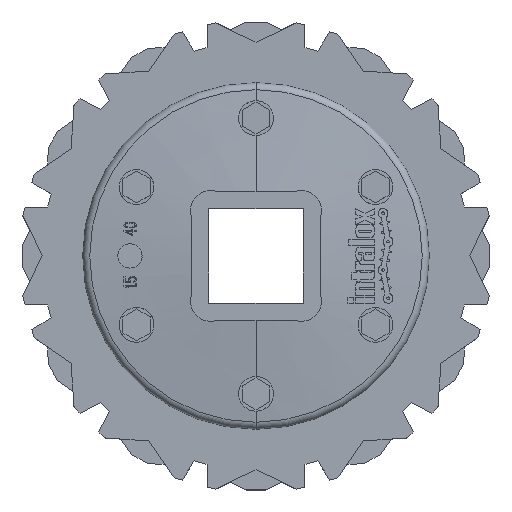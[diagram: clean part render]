
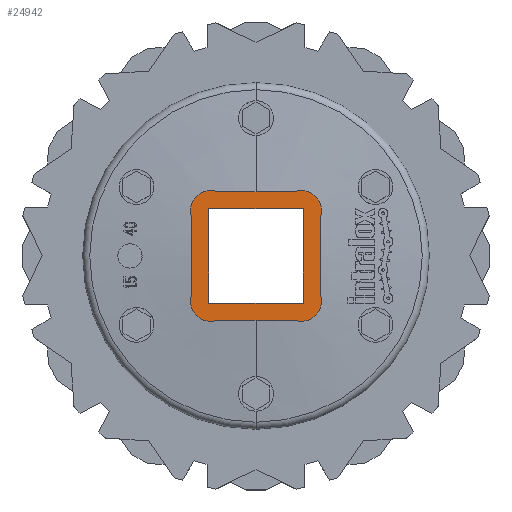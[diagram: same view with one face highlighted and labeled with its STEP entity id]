
A CAD part, top view. The second image highlights one B-rep face of the part: STEP entity #24942.
In plain terms, the highlighted planar face has unit normal (0, 0, 1) as drawn and (0, 1, 0) by its records, which use the part's own axes.
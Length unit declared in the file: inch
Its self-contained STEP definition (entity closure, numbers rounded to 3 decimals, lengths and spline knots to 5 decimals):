
#17965=DIRECTION('',(0.,0.,1.));
#17966=VECTOR('',#17965,1.21061);
#17967=CARTESIAN_POINT('',(-1.0175,0.67,-0.60531));
#17968=LINE('',#17967,#17966);
#17969=CARTESIAN_POINT('',(-0.718,0.67,-0.718));
#17970=DIRECTION('',(0.,1.,0.));
#17971=DIRECTION('',(0.352,0.,-0.936));
#17972=AXIS2_PLACEMENT_3D('',#17969,#17970,#17971);
#17974=DIRECTION('',(-1.,0.,0.));
#17975=VECTOR('',#17974,1.21061);
#17976=CARTESIAN_POINT('',(0.60531,0.67,-1.0175));
#17977=LINE('',#17976,#17975);
#17978=CARTESIAN_POINT('',(0.718,0.67,-0.718));
#17979=DIRECTION('',(0.,1.,0.));
#17980=DIRECTION('',(0.936,0.,0.352));
#17981=AXIS2_PLACEMENT_3D('',#17978,#17979,#17980);
#17983=DIRECTION('',(0.,0.,-1.));
#17984=VECTOR('',#17983,1.21061);
#17985=CARTESIAN_POINT('',(1.0175,0.67,0.60531));
#17986=LINE('',#17985,#17984);
#17987=CARTESIAN_POINT('',(0.718,0.67,0.718));
#17988=DIRECTION('',(0.,1.,0.));
#17989=DIRECTION('',(-0.352,0.,0.936));
#17990=AXIS2_PLACEMENT_3D('',#17987,#17988,#17989);
#17992=DIRECTION('',(1.,0.,0.));
#17993=VECTOR('',#17992,1.21061);
#17994=CARTESIAN_POINT('',(-0.60531,0.67,1.0175));
#17995=LINE('',#17994,#17993);
#17996=CARTESIAN_POINT('',(-0.718,0.67,0.718));
#17997=DIRECTION('',(0.,1.,0.));
#17998=DIRECTION('',(-0.936,0.,-0.352));
#17999=AXIS2_PLACEMENT_3D('',#17996,#17997,#17998);
#18001=DIRECTION('',(-1.,0.,0.));
#18002=VECTOR('',#18001,1.5);
#18003=CARTESIAN_POINT('',(0.75,0.67,-0.75));
#18004=LINE('',#18003,#18002);
#18005=DIRECTION('',(0.,0.,1.));
#18006=VECTOR('',#18005,1.5);
#18007=CARTESIAN_POINT('',(-0.75,0.67,-0.75));
#18008=LINE('',#18007,#18006);
#18009=DIRECTION('',(1.,0.,0.));
#18010=VECTOR('',#18009,1.5);
#18011=CARTESIAN_POINT('',(-0.75,0.67,0.75));
#18012=LINE('',#18011,#18010);
#18013=DIRECTION('',(0.,0.,-1.));
#18014=VECTOR('',#18013,1.5);
#18015=CARTESIAN_POINT('',(0.75,0.67,0.75));
#18016=LINE('',#18015,#18014);
#18287=CARTESIAN_POINT('',(-1.0175,0.67,-0.60531));
#18288=CARTESIAN_POINT('',(-1.0175,0.67,0.60531));
#18289=VERTEX_POINT('',#18287);
#18290=VERTEX_POINT('',#18288);
#18291=CARTESIAN_POINT('',(-0.60531,0.67,1.0175));
#18292=VERTEX_POINT('',#18291);
#18293=CARTESIAN_POINT('',(0.60531,0.67,1.0175));
#18294=VERTEX_POINT('',#18293);
#18295=CARTESIAN_POINT('',(1.0175,0.67,0.60531));
#18296=VERTEX_POINT('',#18295);
#18297=CARTESIAN_POINT('',(1.0175,0.67,-0.60531));
#18298=VERTEX_POINT('',#18297);
#18299=CARTESIAN_POINT('',(0.60531,0.67,-1.0175));
#18300=VERTEX_POINT('',#18299);
#18301=CARTESIAN_POINT('',(-0.60531,0.67,-1.0175));
#18302=VERTEX_POINT('',#18301);
#19047=CARTESIAN_POINT('',(0.75,0.67,-0.75));
#19048=VERTEX_POINT('',#19047);
#19049=CARTESIAN_POINT('',(-0.75,0.67,-0.75));
#19050=VERTEX_POINT('',#19049);
#19051=CARTESIAN_POINT('',(-0.75,0.67,0.75));
#19052=VERTEX_POINT('',#19051);
#19053=CARTESIAN_POINT('',(0.75,0.67,0.75));
#19054=VERTEX_POINT('',#19053);
#24917=CARTESIAN_POINT('',(0.,0.67,0.));
#24918=DIRECTION('',(0.,1.,0.));
#24919=DIRECTION('',(-1.,0.,0.));
#24920=AXIS2_PLACEMENT_3D('',#24917,#24918,#24919);
#24921=PLANE('',#24920);
#24922=ORIENTED_EDGE('',*,*,#24811,.F.);
#24923=ORIENTED_EDGE('',*,*,#24827,.F.);
#24924=ORIENTED_EDGE('',*,*,#24841,.F.);
#24925=ORIENTED_EDGE('',*,*,#24855,.F.);
#24926=ORIENTED_EDGE('',*,*,#24870,.F.);
#24927=ORIENTED_EDGE('',*,*,#24884,.F.);
#24928=ORIENTED_EDGE('',*,*,#24898,.F.);
#24929=ORIENTED_EDGE('',*,*,#24911,.F.);
#24930=EDGE_LOOP('',(#24922,#24923,#24924,#24925,#24926,#24927,#24928,#24929));
#24931=FACE_OUTER_BOUND('',#24930,.F.);
#24933=ORIENTED_EDGE('',*,*,#24932,.T.);
#24935=ORIENTED_EDGE('',*,*,#24934,.T.);
#24937=ORIENTED_EDGE('',*,*,#24936,.T.);
#24939=ORIENTED_EDGE('',*,*,#24938,.T.);
#24940=EDGE_LOOP('',(#24933,#24935,#24937,#24939));
#24941=FACE_BOUND('',#24940,.F.);
#24942=ADVANCED_FACE('',(#24931,#24941),#24921,.T.);
#17973=CIRCLE('',#17972,0.32);
#17982=CIRCLE('',#17981,0.32);
#17991=CIRCLE('',#17990,0.32);
#18000=CIRCLE('',#17999,0.32);
#24811=EDGE_CURVE('',#18289,#18290,#17968,.T.);
#24827=EDGE_CURVE('',#18302,#18289,#17973,.T.);
#24841=EDGE_CURVE('',#18300,#18302,#17977,.T.);
#24855=EDGE_CURVE('',#18298,#18300,#17982,.T.);
#24870=EDGE_CURVE('',#18296,#18298,#17986,.T.);
#24884=EDGE_CURVE('',#18294,#18296,#17991,.T.);
#24898=EDGE_CURVE('',#18292,#18294,#17995,.T.);
#24911=EDGE_CURVE('',#18290,#18292,#18000,.T.);
#24932=EDGE_CURVE('',#19048,#19050,#18004,.T.);
#24934=EDGE_CURVE('',#19050,#19052,#18008,.T.);
#24936=EDGE_CURVE('',#19052,#19054,#18012,.T.);
#24938=EDGE_CURVE('',#19054,#19048,#18016,.T.);
